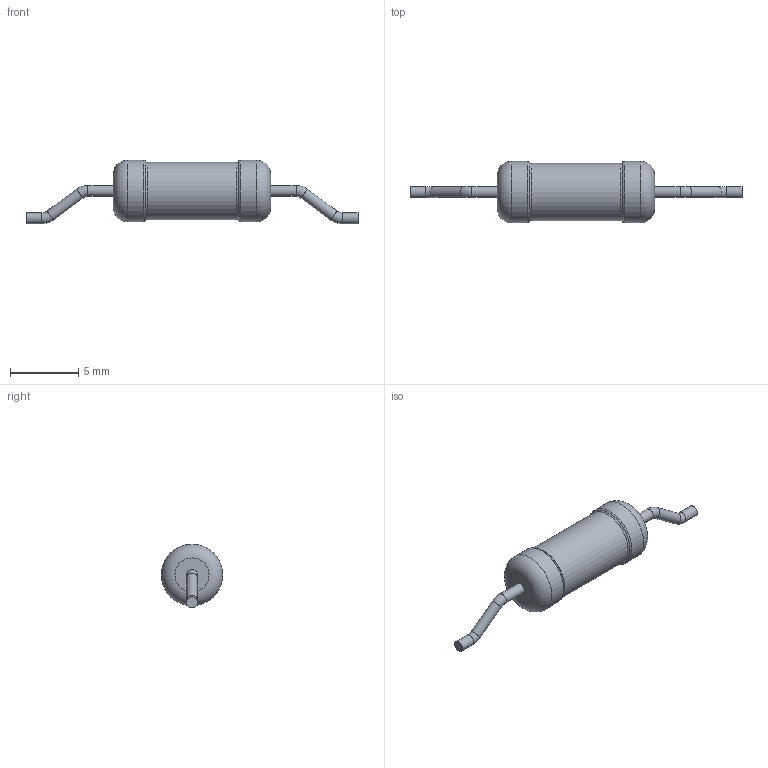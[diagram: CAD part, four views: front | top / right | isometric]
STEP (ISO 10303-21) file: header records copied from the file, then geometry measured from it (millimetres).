
FILE_DESCRIPTION(('STEP AP203'), '1');
FILE_NAME('ﾑ2-29ﾂ-0,5ﾀﾈ(3)', '', ('UNSPECIFIED'), ('UNSPECIFIED'), 'ASCON STEP Converter 1.6', 'ASCON Math Kernel', '');
FILE_SCHEMA(('CONFIG_CONTROL_DESIGN'));
Length unit declared in the file: millimetre
Bounding box: 24.3 x 4.5 x 4.65 mm (x, y, z)
Volume: 170.5 mm3; surface area: 211.7 mm2
Topology: 1 solids, 1 shells, 23 faces, 41 edges, 22 vertices
Faces by surface type: torus 10, cylinder 9, plane 4
Full cylindrical faces by diameter (mm): 0.8 x6, 4.2 x1, 4.5 x2
Entity records: 682 total; most frequent: DIRECTION 92, CARTESIAN_POINT 68, AXIS2_PLACEMENT_3D 46, EDGE_LOOP 44, ORIENTED_EDGE 44, FACE_OUTER_BOUND 38, COLOUR_RGB 24, FILL_AREA_STYLE_COLOUR 24
